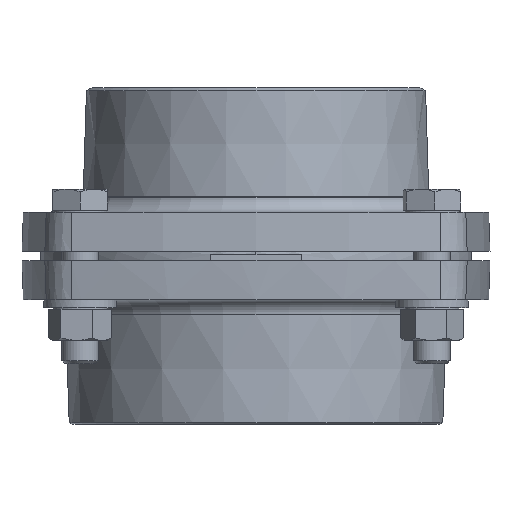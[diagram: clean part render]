
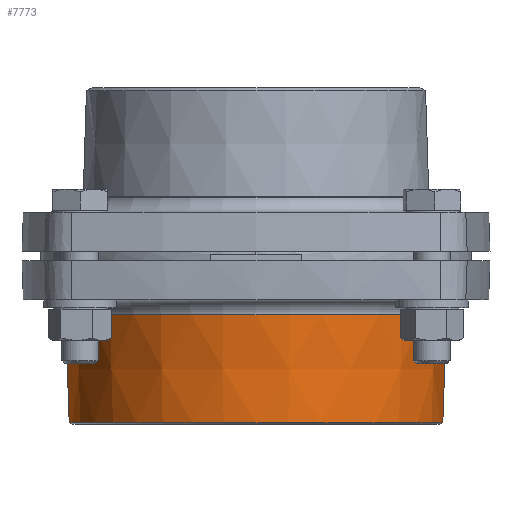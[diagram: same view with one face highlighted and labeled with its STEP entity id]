
A CAD part, front view. The second image highlights one B-rep face of the part: STEP entity #7773.
In plain terms, the highlighted conical face has half-angle 2 degrees and reference radius 63 mm.
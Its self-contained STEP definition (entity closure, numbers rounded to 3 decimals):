
#326 = DIRECTION ( 'NONE',  ( 0., 0., -1. ) ) ;
#426 = AXIS2_PLACEMENT_3D ( 'NONE', #9524, #10386, #1399 ) ;
#571 = DIRECTION ( 'NONE',  ( 0.035, 0., 0.999 ) ) ;
#738 = EDGE_CURVE ( 'NONE', #5512, #4115, #6430, .T. ) ;
#800 = DIRECTION ( 'NONE',  ( 1., 0., 0. ) ) ;
#1399 = DIRECTION ( 'NONE',  ( -1., 0., 0. ) ) ;
#1665 = EDGE_CURVE ( 'NONE', #9190, #10433, #2427, .T. ) ;
#1983 = AXIS2_PLACEMENT_3D ( 'NONE', #5763, #326, #6663 ) ;
#2063 = ORIENTED_EDGE ( 'NONE', *, *, #1665, .F. ) ;
#2427 = LINE ( 'NONE', #11470, #6675 ) ;
#2473 = CARTESIAN_POINT ( 'NONE',  ( 35.19, 14.557, -38.215 ) ) ;
#3404 = CARTESIAN_POINT ( 'NONE',  ( -90.641, 14.557, -43.04 ) ) ;
#3654 = EDGE_CURVE ( 'NONE', #9190, #5512, #8782, .T. ) ;
#3657 = EDGE_LOOP ( 'NONE', ( #7210, #5795, #4896, #2063 ) ) ;
#4115 = VERTEX_POINT ( 'NONE', #9859 ) ;
#4693 = EDGE_CURVE ( 'NONE', #4115, #10433, #5226, .T. ) ;
#4896 = ORIENTED_EDGE ( 'NONE', *, *, #4693, .T. ) ;
#5073 = FACE_OUTER_BOUND ( 'NONE', #3657, .T. ) ;
#5226 = CIRCLE ( 'NONE', #1983, 62.831 ) ;
#5512 = VERTEX_POINT ( 'NONE', #6735 ) ;
#5763 = CARTESIAN_POINT ( 'NONE',  ( -27.81, 14.557, -43.04 ) ) ;
#5795 = ORIENTED_EDGE ( 'NONE', *, *, #738, .T. ) ;
#6243 = DIRECTION ( 'NONE',  ( 0., 0., 1. ) ) ;
#6317 = AXIS2_PLACEMENT_3D ( 'NONE', #11670, #6243, #800 ) ;
#6349 = CONICAL_SURFACE ( 'NONE', #426, 63., 0.035 ) ;
#6430 = LINE ( 'NONE', #2473, #8855 ) ;
#6663 = DIRECTION ( 'NONE',  ( -1., 0., 0. ) ) ;
#6675 = VECTOR ( 'NONE', #7817, 1000. ) ;
#6735 = CARTESIAN_POINT ( 'NONE',  ( 33.779, 14.557, -78.63 ) ) ;
#7210 = ORIENTED_EDGE ( 'NONE', *, *, #3654, .T. ) ;
#7773 = ADVANCED_FACE ( 'NONE', ( #5073 ), #6349, .T. ) ;
#7817 = DIRECTION ( 'NONE',  ( -0.035, 0., 0.999 ) ) ;
#8782 = CIRCLE ( 'NONE', #6317, 61.589 ) ;
#8855 = VECTOR ( 'NONE', #571, 1000. ) ;
#9190 = VERTEX_POINT ( 'NONE', #10839 ) ;
#9524 = CARTESIAN_POINT ( 'NONE',  ( -27.81, 14.557, -38.215 ) ) ;
#9859 = CARTESIAN_POINT ( 'NONE',  ( 35.021, 14.557, -43.04 ) ) ;
#10386 = DIRECTION ( 'NONE',  ( 0., 0., 1. ) ) ;
#10433 = VERTEX_POINT ( 'NONE', #3404 ) ;
#10839 = CARTESIAN_POINT ( 'NONE',  ( -89.399, 14.557, -78.63 ) ) ;
#11470 = CARTESIAN_POINT ( 'NONE',  ( -90.81, 14.557, -38.215 ) ) ;
#11670 = CARTESIAN_POINT ( 'NONE',  ( -27.81, 14.557, -78.63 ) ) ;
